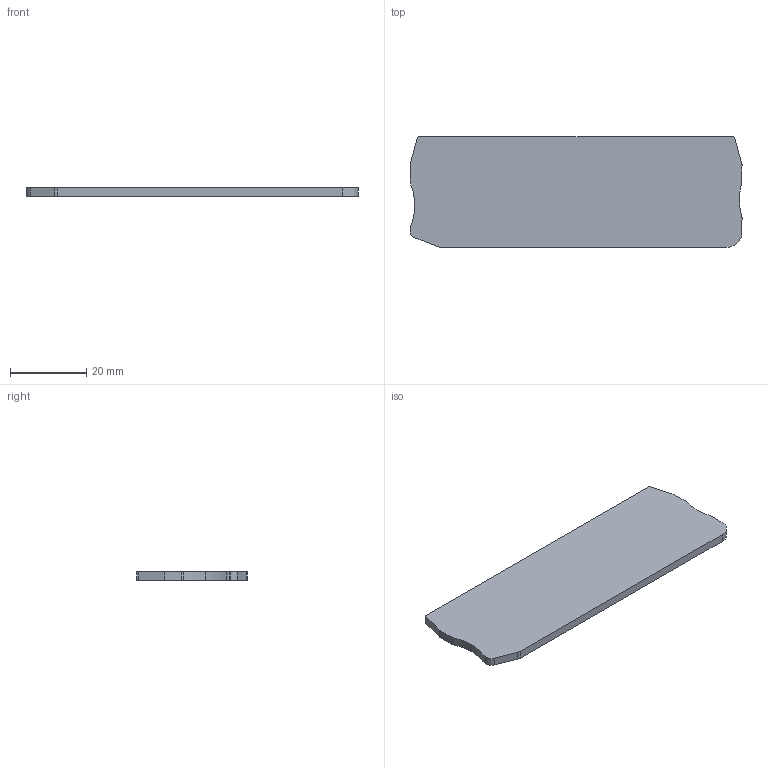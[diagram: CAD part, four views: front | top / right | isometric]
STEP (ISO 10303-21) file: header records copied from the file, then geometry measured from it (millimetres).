
FILE_DESCRIPTION(('SolidDesigner STEP Export'),'2;1');
FILE_NAME('3030527_d_st4quattro.stp','2004-02-04T 7:02:42',(''),(''),'OneSpaceDesigner STEP processor Version: 9.0 (March 2001)for AP214(CD)(Solid Model)','CoCreate OneSpaceDesigner: 11.50A 18-Jul-2002(C) CoCreate Software GmbH','');
FILE_SCHEMA(('AUTOMOTIVE_DESIGN_CC2 {1 2 10303 214 -1 1 5 1}'));
Length unit declared in the file: millimetre
Products named in the file (2): d-st_4-quattro-select
Assembly tree (1 placements, depth 2):
  d-st_4-quattro-select
    d-st_4-quattro-select
Bounding box: 87.1 x 29.05 x 2.2 mm (x, y, z)
Volume: 5469.4 mm3; surface area: 5466.3 mm2
Topology: 1 solids, 1 shells, 26 faces, 72 edges, 48 vertices
Faces by surface type: cylinder 15, plane 11
Entity records: 1069 total; most frequent: DIRECTION 146, ORIENTED_EDGE 144, CARTESIAN_POINT 142, EDGE_CURVE 72, AXIS2_PLACEMENT_3D 52, VERTEX_POINT 48, VECTOR 42, LINE 42
